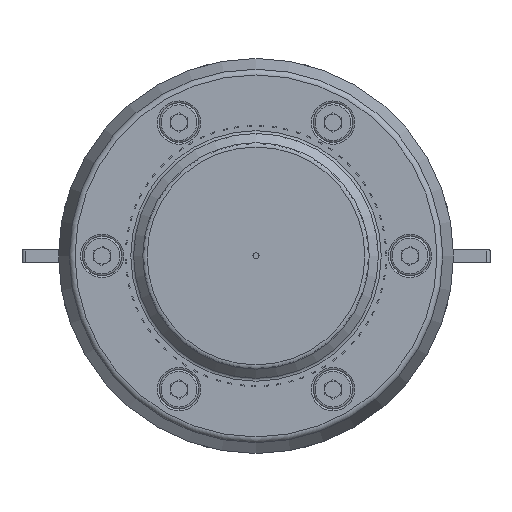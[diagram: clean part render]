
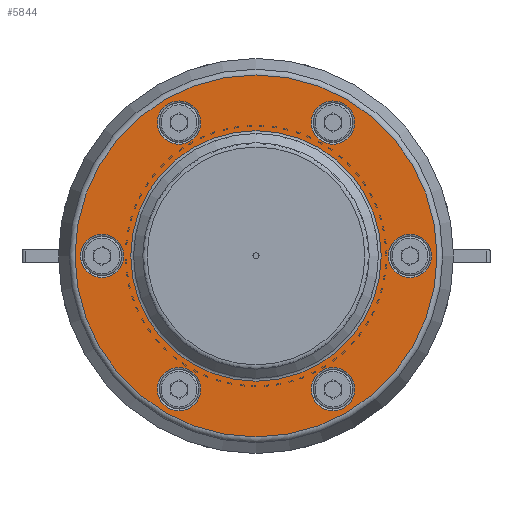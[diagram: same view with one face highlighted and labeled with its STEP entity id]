
A CAD part, top view. The second image highlights one B-rep face of the part: STEP entity #5844.
In plain terms, the highlighted planar face has unit normal (0, 0, 1).
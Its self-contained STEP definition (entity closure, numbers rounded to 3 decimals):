
#5844=ADVANCED_FACE('',(#20097,#20099,#20101,#20103,#20105,#20107,#20109,#20111),
#20113,.T.);
#20097=FACE_BOUND('',#20098,.T.);
#20098=EDGE_LOOP('',(#88468));
#20099=FACE_BOUND('',#20100,.T.);
#20100=EDGE_LOOP('',(#88469));
#20101=FACE_BOUND('',#20102,.T.);
#20102=EDGE_LOOP('',(#88470));
#20103=FACE_BOUND('',#20104,.T.);
#20104=EDGE_LOOP('',(#88471));
#20105=FACE_BOUND('',#20106,.T.);
#20106=EDGE_LOOP('',(#88472));
#20107=FACE_BOUND('',#20108,.T.);
#20108=EDGE_LOOP('',(#88473));
#20109=FACE_BOUND('',#20110,.T.);
#20110=EDGE_LOOP('',(#88474));
#20111=FACE_BOUND('',#20112,.T.);
#20112=EDGE_LOOP('',(#88475));
#20113=PLANE('',#20114);
#20114=AXIS2_PLACEMENT_3D('',#20115,#20116,#20117);
#20115=CARTESIAN_POINT('',(0.,0.,-12.));
#20116=DIRECTION('',(0.,0.,1.));
#20117=DIRECTION('',(-1.,0.,0.));
#88468=ORIENTED_EDGE('',*,*,#94583,.F.);
#88469=ORIENTED_EDGE('',*,*,#94584,.F.);
#88470=ORIENTED_EDGE('',*,*,#94585,.F.);
#88471=ORIENTED_EDGE('',*,*,#94586,.F.);
#88472=ORIENTED_EDGE('',*,*,#94587,.T.);
#88473=ORIENTED_EDGE('',*,*,#94588,.F.);
#88474=ORIENTED_EDGE('',*,*,#94589,.F.);
#88475=ORIENTED_EDGE('',*,*,#94590,.F.);
#94583=EDGE_CURVE('',#100743,#100743,#100744,.T.);
#94584=EDGE_CURVE('',#100745,#100745,#100746,.F.);
#94585=EDGE_CURVE('',#100747,#100747,#100748,.F.);
#94586=EDGE_CURVE('',#100749,#100749,#100750,.F.);
#94587=EDGE_CURVE('',#100751,#100751,#100752,.T.);
#94588=EDGE_CURVE('',#100753,#100753,#100754,.F.);
#94589=EDGE_CURVE('',#100755,#100755,#100756,.F.);
#94590=EDGE_CURVE('',#100757,#100757,#100758,.F.);
#100743=VERTEX_POINT('',#134963);
#100744=CIRCLE('',#134964,178.679);
#100745=VERTEX_POINT('',#134968);
#100746=CIRCLE('',#134969,21.4);
#100747=VERTEX_POINT('',#134973);
#100748=CIRCLE('',#134974,21.4);
#100749=VERTEX_POINT('',#134978);
#100750=CIRCLE('',#134979,21.4);
#100751=VERTEX_POINT('',#134983);
#100752=CIRCLE('',#134984,123.657);
#100753=VERTEX_POINT('',#134988);
#100754=CIRCLE('',#134989,21.4);
#100755=VERTEX_POINT('',#134993);
#100756=CIRCLE('',#134994,21.4);
#100757=VERTEX_POINT('',#134998);
#100758=CIRCLE('',#134999,21.4);
#134963=CARTESIAN_POINT('',(-178.679,0.,-12.));
#134964=AXIS2_PLACEMENT_3D('',#134965,#134966,#134967);
#134965=CARTESIAN_POINT('',(0.,0.,-12.));
#134966=DIRECTION('',(0.,0.,-1.));
#134967=DIRECTION('',(-1.,0.,0.));
#134968=CARTESIAN_POINT('',(-86.7,150.169,-12.));
#134969=AXIS2_PLACEMENT_3D('',#134970,#134971,#134972);
#134970=CARTESIAN_POINT('',(-76.,131.636,-12.));
#134971=DIRECTION('',(0.,0.,-1.));
#134972=DIRECTION('',(-0.5,0.866,0.));
#134973=CARTESIAN_POINT('',(173.4,0.,-12.));
#134974=AXIS2_PLACEMENT_3D('',#134975,#134976,#134977);
#134975=CARTESIAN_POINT('',(152.,0.,-12.));
#134976=DIRECTION('',(0.,0.,-1.));
#134977=DIRECTION('',(1.,0.,0.));
#134978=CARTESIAN_POINT('',(-86.7,-150.169,-12.));
#134979=AXIS2_PLACEMENT_3D('',#134980,#134981,#134982);
#134980=CARTESIAN_POINT('',(-76.,-131.636,-12.));
#134981=DIRECTION('',(0.,0.,-1.));
#134982=DIRECTION('',(-0.5,-0.866,0.));
#134983=CARTESIAN_POINT('',(-123.657,0.,-12.));
#134984=AXIS2_PLACEMENT_3D('',#134985,#134986,#134987);
#134985=CARTESIAN_POINT('',(0.,0.,-12.));
#134986=DIRECTION('',(0.,0.,-1.));
#134987=DIRECTION('',(-1.,0.,0.));
#134988=CARTESIAN_POINT('',(-173.4,0.,-12.));
#134989=AXIS2_PLACEMENT_3D('',#134990,#134991,#134992);
#134990=CARTESIAN_POINT('',(-152.,0.,-12.));
#134991=DIRECTION('',(0.,0.,-1.));
#134992=DIRECTION('',(-1.,0.,0.));
#134993=CARTESIAN_POINT('',(86.7,-150.169,-12.));
#134994=AXIS2_PLACEMENT_3D('',#134995,#134996,#134997);
#134995=CARTESIAN_POINT('',(76.,-131.636,-12.));
#134996=DIRECTION('',(0.,0.,-1.));
#134997=DIRECTION('',(0.5,-0.866,0.));
#134998=CARTESIAN_POINT('',(86.7,150.169,-12.));
#134999=AXIS2_PLACEMENT_3D('',#135000,#135001,#135002);
#135000=CARTESIAN_POINT('',(76.,131.636,-12.));
#135001=DIRECTION('',(0.,0.,-1.));
#135002=DIRECTION('',(0.5,0.866,0.));
